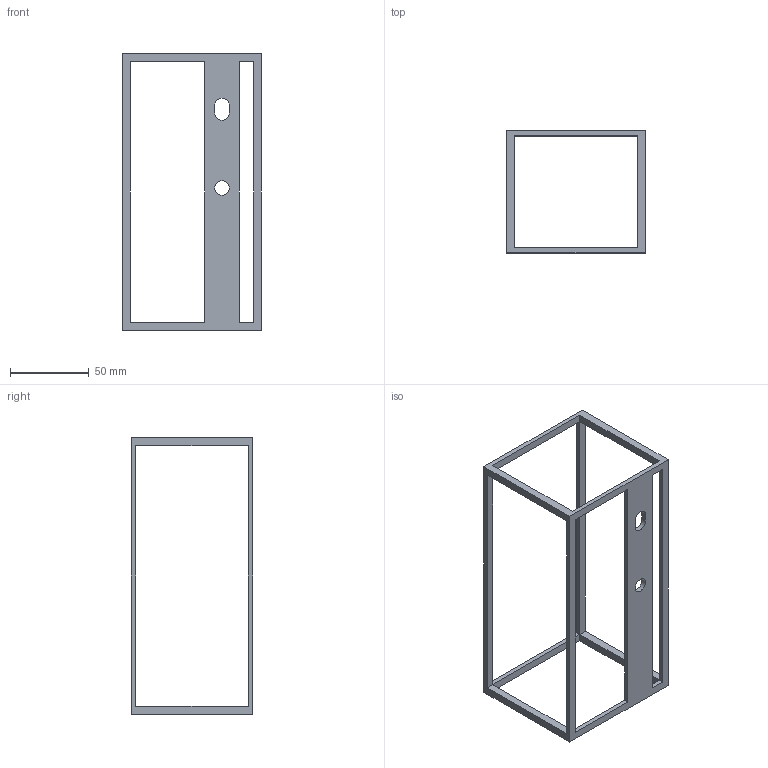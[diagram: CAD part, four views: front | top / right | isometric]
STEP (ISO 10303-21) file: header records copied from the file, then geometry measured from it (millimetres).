
FILE_DESCRIPTION(('FreeCAD Model'),'2;1');
FILE_NAME('Open CASCADE Shape Model','2026-09-11T14:18:25',( '' ),( '' ),'Open CASCADE STEP processor 7.8','FreeCAD','Unknown');
FILE_SCHEMA(('AUTOMOTIVE_DESIGN { 1 0 10303 214 1 1 1 1 }'));
Length unit declared in the file: millimetre
Products named in the file (1): Open CASCADE STEP translator 7.8 9
Bounding box: 88 x 77 x 175 mm (x, y, z)
Volume: 32638.7 mm3; surface area: 29638 mm2
Topology: 1 solids, 1 shells, 38 faces, 99 edges, 58 vertices
Faces by surface type: plane 35, cylinder 3
Full cylindrical faces by diameter (mm): 9.2 x1
Entity records: 1159 total; most frequent: ORIENTED_EDGE 198, CARTESIAN_POINT 196, DIRECTION 183, EDGE_CURVE 99, LINE 93, VECTOR 93, VERTEX_POINT 58, FACE_BOUND 49
